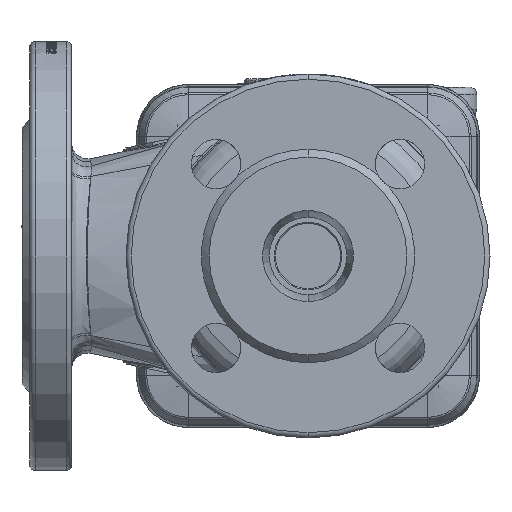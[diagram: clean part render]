
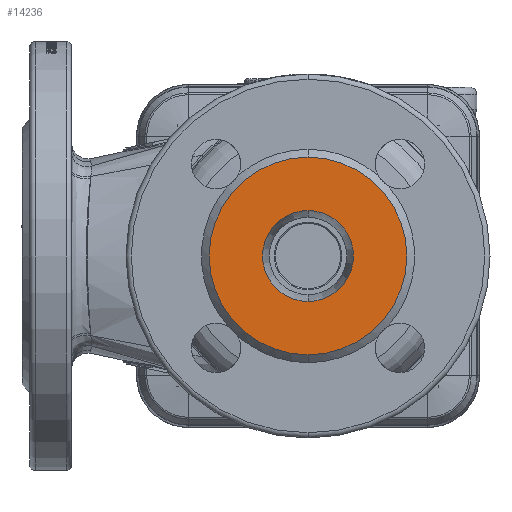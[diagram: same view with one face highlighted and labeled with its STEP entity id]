
A CAD part, front view. The second image highlights one B-rep face of the part: STEP entity #14236.
In plain terms, the highlighted planar face has unit normal (0, -1, 0).
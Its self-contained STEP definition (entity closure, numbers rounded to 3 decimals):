
#2977 = AXIS2_PLACEMENT_3D ( 'NONE', #88306, #87721, #144123 ) ;
#7247 = EDGE_CURVE ( 'NONE', #121173, #148352, #100143, .T. ) ;
#11954 = VERTEX_POINT ( 'NONE', #38928 ) ;
#14109 = CARTESIAN_POINT ( 'NONE',  ( 0., -115., 38. ) ) ;
#14236 = ADVANCED_FACE ( 'NONE', ( #80801, #72122 ), #59229, .F. ) ;
#21108 = CARTESIAN_POINT ( 'NONE',  ( 0., -115., 0. ) ) ;
#23871 = ORIENTED_EDGE ( 'NONE', *, *, #43989, .F. ) ;
#24405 = DIRECTION ( 'NONE',  ( 0., 0., 1. ) ) ;
#30581 = EDGE_LOOP ( 'NONE', ( #32255, #133660 ) ) ;
#31910 = ORIENTED_EDGE ( 'NONE', *, *, #72112, .F. ) ;
#32255 = ORIENTED_EDGE ( 'NONE', *, *, #144364, .F. ) ;
#35435 = AXIS2_PLACEMENT_3D ( 'NONE', #21108, #116936, #48963 ) ;
#36403 = DIRECTION ( 'NONE',  ( 0., 0., 1. ) ) ;
#38928 = CARTESIAN_POINT ( 'NONE',  ( 0., -115., -38. ) ) ;
#38992 = CARTESIAN_POINT ( 'NONE',  ( 0., -115., 0. ) ) ;
#43989 = EDGE_CURVE ( 'NONE', #109929, #11954, #98856, .T. ) ;
#48963 = DIRECTION ( 'NONE',  ( 0., 0., 1. ) ) ;
#50883 = DIRECTION ( 'NONE',  ( 0., -1., 0. ) ) ;
#59229 = PLANE ( 'NONE',  #2977 ) ;
#68018 = DIRECTION ( 'NONE',  ( 0., 1., 0. ) ) ;
#72112 = EDGE_CURVE ( 'NONE', #11954, #109929, #108255, .T. ) ;
#72122 = FACE_BOUND ( 'NONE', #30581, .T. ) ;
#77000 = CARTESIAN_POINT ( 'NONE',  ( 0., -115., 0. ) ) ;
#77290 = CARTESIAN_POINT ( 'NONE',  ( 0., -115., 17.5 ) ) ;
#80801 = FACE_OUTER_BOUND ( 'NONE', #123770, .T. ) ;
#86170 = DIRECTION ( 'NONE',  ( 0., 0., 1. ) ) ;
#87721 = DIRECTION ( 'NONE',  ( 0., 1., 0. ) ) ;
#88306 = CARTESIAN_POINT ( 'NONE',  ( 0., -115., 0. ) ) ;
#97090 = CARTESIAN_POINT ( 'NONE',  ( 0., -115., 0. ) ) ;
#98856 = CIRCLE ( 'NONE', #128110, 38. ) ;
#100143 = CIRCLE ( 'NONE', #109359, 17.5 ) ;
#108255 = CIRCLE ( 'NONE', #35435, 38. ) ;
#109359 = AXIS2_PLACEMENT_3D ( 'NONE', #77000, #50883, #36403 ) ;
#109929 = VERTEX_POINT ( 'NONE', #14109 ) ;
#116936 = DIRECTION ( 'NONE',  ( 0., 1., 0. ) ) ;
#121173 = VERTEX_POINT ( 'NONE', #130467 ) ;
#123770 = EDGE_LOOP ( 'NONE', ( #23871, #31910 ) ) ;
#128110 = AXIS2_PLACEMENT_3D ( 'NONE', #38992, #68018, #24405 ) ;
#128732 = AXIS2_PLACEMENT_3D ( 'NONE', #97090, #166915, #86170 ) ;
#130467 = CARTESIAN_POINT ( 'NONE',  ( 0., -115., -17.5 ) ) ;
#133660 = ORIENTED_EDGE ( 'NONE', *, *, #7247, .F. ) ;
#144123 = DIRECTION ( 'NONE',  ( 0., 0., 1. ) ) ;
#144364 = EDGE_CURVE ( 'NONE', #148352, #121173, #160824, .T. ) ;
#148352 = VERTEX_POINT ( 'NONE', #77290 ) ;
#160824 = CIRCLE ( 'NONE', #128732, 17.5 ) ;
#166915 = DIRECTION ( 'NONE',  ( 0., -1., 0. ) ) ;
